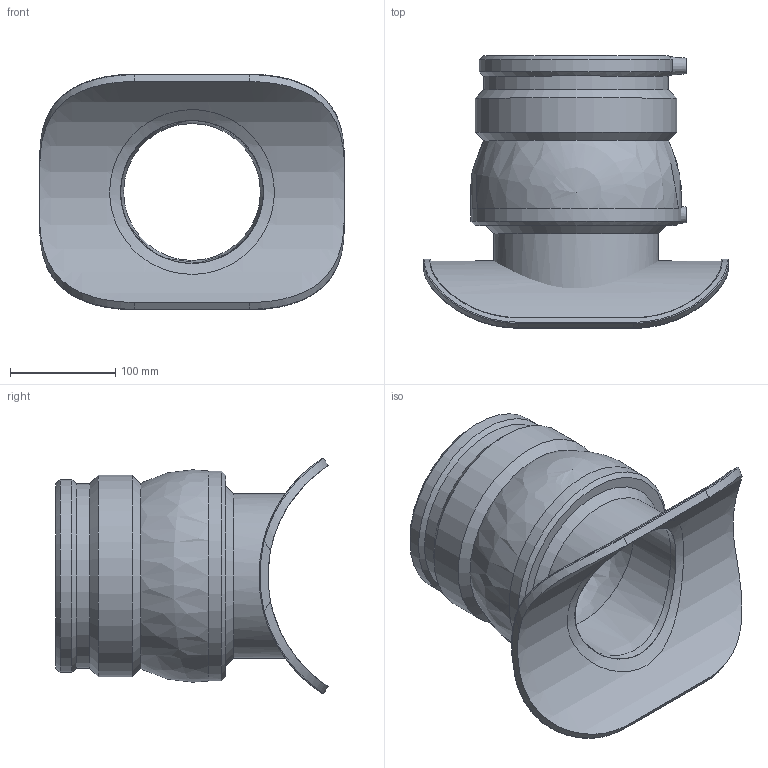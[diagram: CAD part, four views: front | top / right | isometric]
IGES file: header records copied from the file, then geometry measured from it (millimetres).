
Global section: file name: 475804250160.ipt; native system: Autodesk Inventor 2015; preprocessor: unknown; author: Кирилл,,11,0; organization: 20170830.161326; date: 20171106.093457; units: millimetre
Bounding box: 290 x 259.39 x 224.31 mm (x, y, z)
Volume: 2484954.8 mm3; surface area: 368463.2 mm2
Topology: 2 solids, 2 shells, 69 faces, 162 edges, 104 vertices
Faces by surface type: plane 17, cylinder 17, revolution 17, bspline 9, cone 8, sphere 1
Full cylindrical faces by diameter (mm): 4 x2, 156.8 x1, 176 x1, 192 x1
